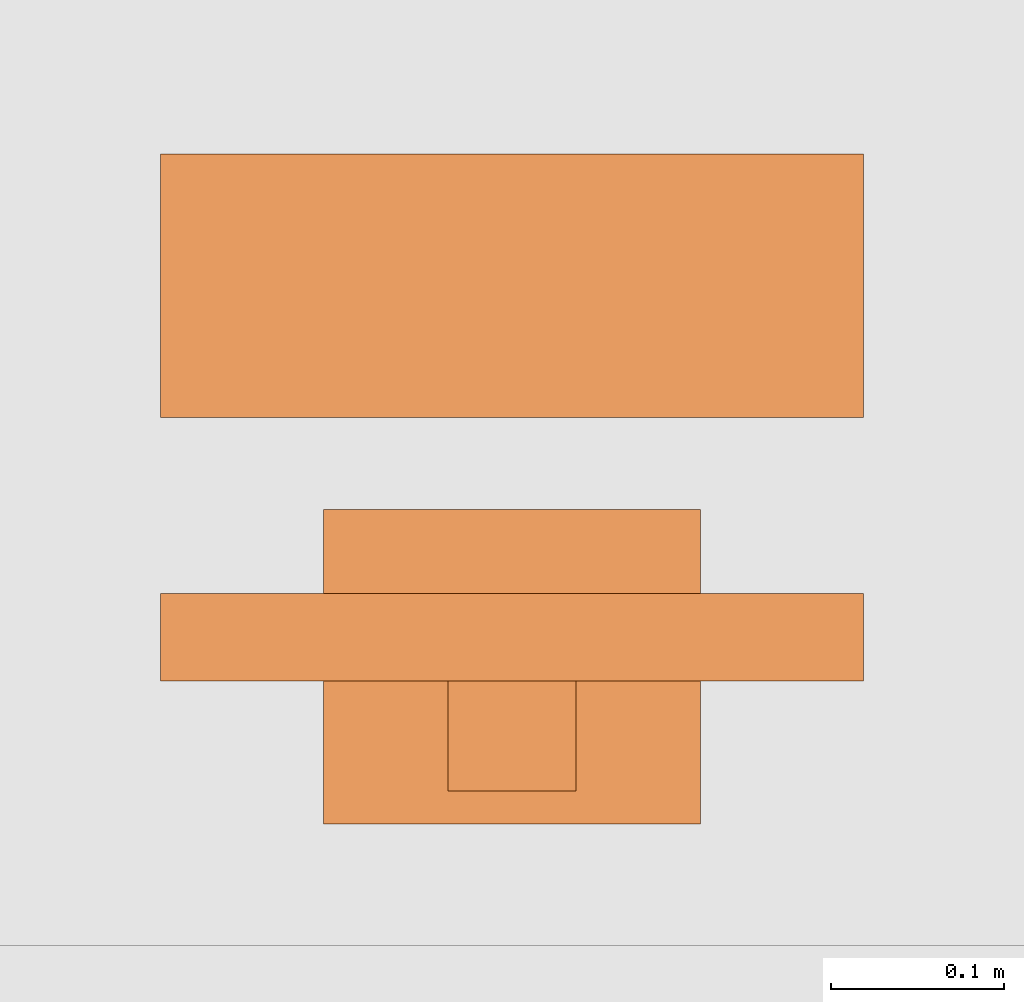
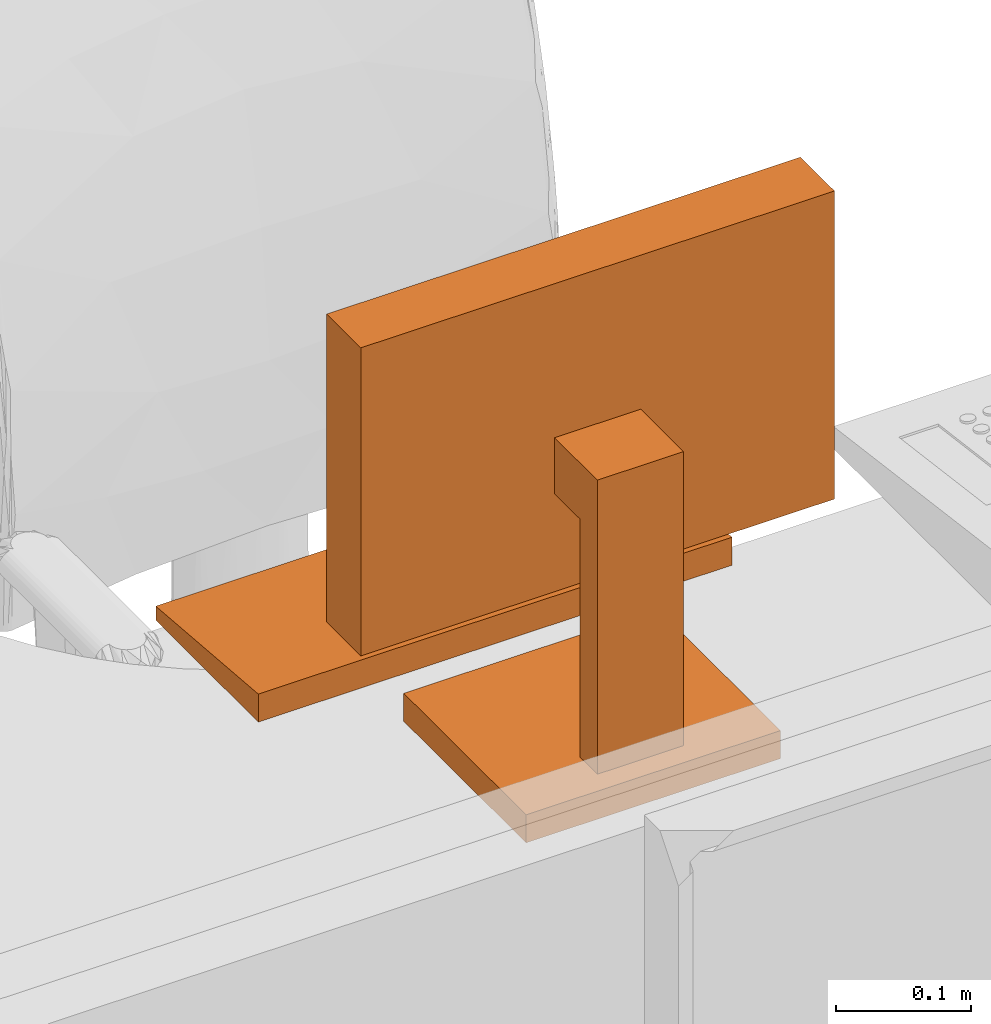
# One storey, part 102 of 142: 1 proxy.
"""IFC2X3 building model written with IfcOpenShell, lengths in feet."""

from ifc_helpers import new_model, entity, si_unit, converted_unit, derived_unit, direction, frame, origin, place, context, subcontext, project, spatial, faceted_brep, source, transform, mapped, type_object, type_shapes, element, save


model = new_model("IFC2X3")

# Units and contexts
model_context = context("Model", 3, precision=0.0001, world=origin(), true_north=direction((6.12303176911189e-17, 1.0)))
body_context = subcontext(model_context, "Body", "Model", "MODEL_VIEW")
ifc_project = project(units=[converted_unit("LENGTHUNIT", "FOOT", entity("IfcRatioMeasure", 0.3048), si_unit("LENGTHUNIT", "METRE"), dimensions=[1, 0, 0, 0, 0, 0, 0]), converted_unit("AREAUNIT", "SQUARE FOOT", entity("IfcRatioMeasure", 0.09290304), si_unit("AREAUNIT", "SQUARE_METRE"), dimensions=[2, 0, 0, 0, 0, 0, 0]), converted_unit("VOLUMEUNIT", "CUBIC FOOT", entity("IfcRatioMeasure", 0.028316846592), si_unit("VOLUMEUNIT", "CUBIC_METRE"), dimensions=[3, 0, 0, 0, 0, 0, 0]), converted_unit("PLANEANGLEUNIT", "DEGREE", entity("IfcRatioMeasure", 0.0174532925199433), si_unit("PLANEANGLEUNIT", "RADIAN"), dimensions=[0, 0, 0, 0, 0, 0, 0]), si_unit("MASSUNIT", "GRAM", prefix="KILO"), derived_unit("MASSDENSITYUNIT", [(si_unit("MASSUNIT", "GRAM", prefix="KILO"), 1), (si_unit("LENGTHUNIT", "METRE"), -3)]), si_unit("TIMEUNIT", "SECOND"), si_unit("FREQUENCYUNIT", "HERTZ"), si_unit("THERMODYNAMICTEMPERATUREUNIT", "DEGREE_CELSIUS"), derived_unit("THERMALTRANSMITTANCEUNIT", [(si_unit("MASSUNIT", "GRAM", prefix="KILO"), 1), (si_unit("THERMODYNAMICTEMPERATUREUNIT", "KELVIN"), -1), (si_unit("TIMEUNIT", "SECOND"), -3)]), derived_unit("VOLUMETRICFLOWRATEUNIT", [(si_unit("LENGTHUNIT", "METRE"), 3), (si_unit("TIMEUNIT", "SECOND"), -1)]), si_unit("ELECTRICCURRENTUNIT", "AMPERE"), si_unit("ELECTRICVOLTAGEUNIT", "VOLT"), si_unit("POWERUNIT", "WATT"), si_unit("FORCEUNIT", "NEWTON"), si_unit("ILLUMINANCEUNIT", "LUX"), si_unit("LUMINOUSFLUXUNIT", "LUMEN"), si_unit("LUMINOUSINTENSITYUNIT", "CANDELA"), derived_unit("USERDEFINED", [(si_unit("MASSUNIT", "GRAM", prefix="KILO"), -1), (si_unit("LENGTHUNIT", "METRE"), -2), (si_unit("TIMEUNIT", "SECOND"), 3), (si_unit("LUMINOUSFLUXUNIT", "LUMEN"), 1)]), derived_unit("LINEARVELOCITYUNIT", [(si_unit("LENGTHUNIT", "METRE"), 1), (si_unit("TIMEUNIT", "SECOND"), -1)]), si_unit("PRESSUREUNIT", "PASCAL"), derived_unit("USERDEFINED", [(si_unit("LENGTHUNIT", "METRE"), -2), (si_unit("MASSUNIT", "GRAM", prefix="KILO"), 1), (si_unit("TIMEUNIT", "SECOND"), -2)])], contexts=[model_context])

# Site, building, storey, space
site_placement = place(None, origin())
site = spatial("IfcSite", under=ifc_project, at=site_placement, Name="Default", CompositionType="ELEMENT")
building_placement = place(site_placement, origin())
building = spatial("IfcBuilding", under=site, at=building_placement, Name="OUTPATIENT / PACT CLINIC (Ch. 265)", CompositionType="ELEMENT")
storey_placement = place(building_placement, origin())
storey = spatial("IfcBuildingStorey", under=building, at=storey_placement, Name="LEVEL 1", CompositionType="ELEMENT", Elevation=0.0)
space_placement = place(storey_placement, origin())
space = spatial("IfcSpace", under=storey, at=space_placement, Name="WRTM1", CompositionType="ELEMENT", InteriorOrExteriorSpace="INTERNAL")

# Proxy
building_element_proxy_type = type_object("IfcBuildingElementProxyType", Name="M1801 - Computer with Flat Panel Monitor", PredefinedType="NOTDEFINED")
shared_shape = source(origin(), body_context, "Body", "Brep", [
    faceted_brep([(0.666666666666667, -0.5625, 0.0), (0.666666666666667, -0.0624999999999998, 0.0), (0.666666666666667, -0.0624999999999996, 0.0833333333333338), (0.666666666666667, -0.5625, 0.0416666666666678), (-0.666666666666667, -0.5625, 0.0), (-0.666666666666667, -0.5625, 0.0416666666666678), (-0.666666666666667, -0.0624999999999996, 0.0833333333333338), (-0.666666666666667, -0.0624999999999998, 0.0)], [[[0, 1, 2, 3]], [[4, 5, 6, 7]], [[1, 0, 4, 7]], [[2, 1, 7, 6]], [[3, 2, 6, 5]], [[0, 3, 5, 4]]]),
    faceted_brep([(0.666666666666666, 0.437223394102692, 1.41666666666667), (-0.666666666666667, 0.437223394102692, 1.41666666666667), (-0.666666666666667, 0.271109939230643, 1.41666666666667), (0.666666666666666, 0.271109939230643, 1.41666666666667), (0.666666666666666, 0.437223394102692, 0.500000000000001), (0.666666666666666, 0.271109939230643, 0.500000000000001), (-0.666666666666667, 0.271109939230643, 0.500000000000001), (-0.666666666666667, 0.437223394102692, 0.500000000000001), (-0.625, 0.271109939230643, 1.375), (0.625, 0.271109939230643, 1.375), (0.625, 0.271109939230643, 0.541666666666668), (-0.625, 0.271109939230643, 0.541666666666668), (0.625, 0.286812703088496, 1.375), (-0.625, 0.286812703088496, 1.375), (0.625, 0.286812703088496, 0.541666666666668), (-0.625, 0.286812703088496, 0.541666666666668)], [[[0, 1, 2, 3]], [[4, 5, 6, 7]], [[1, 0, 4, 7]], [[2, 1, 7, 6]], [[3, 2, 6, 5], [8, 9, 10, 11]], [[0, 3, 5, 4]], [[12, 9, 8, 13]], [[14, 15, 11, 10]], [[12, 13, 15, 14]], [[13, 8, 11, 15]], [[9, 12, 14, 10]]]),
    faceted_brep([(0.358011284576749, 0.111770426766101, 0.0833333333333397), (0.358011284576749, 0.111770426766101, 0.0), (0.358011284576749, 0.708333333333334, 0.0), (0.358011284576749, 0.708333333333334, 0.0833333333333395), (-0.358011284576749, 0.708333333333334, 0.0833333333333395), (-0.358011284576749, 0.708333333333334, 0.0), (-0.358011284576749, 0.111770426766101, 0.0), (-0.358011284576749, 0.111770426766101, 0.0833333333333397), (0.12128795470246, 0.645556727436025, 0.104166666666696), (0.12128795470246, 0.645556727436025, 0.0833333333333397), (-0.12128795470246, 0.645556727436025, 0.0833333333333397), (-0.12128795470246, 0.645556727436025, 0.104166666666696), (0.12128795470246, 0.645556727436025, 0.958333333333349), (-0.12128795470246, 0.645556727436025, 0.958333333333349), (0.12128795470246, 0.437223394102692, 0.958333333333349), (-0.12128795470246, 0.437223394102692, 0.958333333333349), (0.12128795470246, 0.437223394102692, 0.791666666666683), (-0.12128795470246, 0.437223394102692, 0.791666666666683), (0.12128795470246, 0.562223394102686, 0.791666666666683), (-0.12128795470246, 0.562223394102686, 0.791666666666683), (0.12128795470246, 0.562223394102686, 0.0833333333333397), (-0.12128795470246, 0.562223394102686, 0.0833333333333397)], [[[0, 1, 2, 3]], [[4, 5, 6, 7]], [[8, 9, 10, 11]], [[12, 8, 11, 13]], [[14, 12, 13, 15]], [[16, 14, 15, 17]], [[18, 16, 17, 19]], [[20, 18, 19, 21]], [[0, 3, 4, 7], [9, 20, 21, 10]], [[1, 0, 7, 6]], [[2, 1, 6, 5]], [[3, 2, 5, 4]], [[20, 9, 8, 12, 14, 16, 18]], [[10, 21, 19, 17, 15, 13, 11]]]),
])
type_shapes(building_element_proxy_type, [shared_shape])
proxy_placement = place(space_placement, frame((421.617616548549, -921.531598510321, 3.125), z_axis=(0.0, 0.0, 1.0), x_axis=(-1.0, 0.0, 0.0)))
element("IfcBuildingElementProxy", 1, at=proxy_placement, inside=space, type_object=building_element_proxy_type, Name="M1801 - Computer with Flat Panel Monitor:M1801 - Computer with Flat Panel Monitor", ObjectType="M1801 - Computer with Flat Panel Monitor", context=body_context, shape_type="MappedRepresentation", body=[
    mapped(shared_shape, transform((0.0, 0.0, 0.0), scale=1.0)),
])

save(model, "model.ifc")
